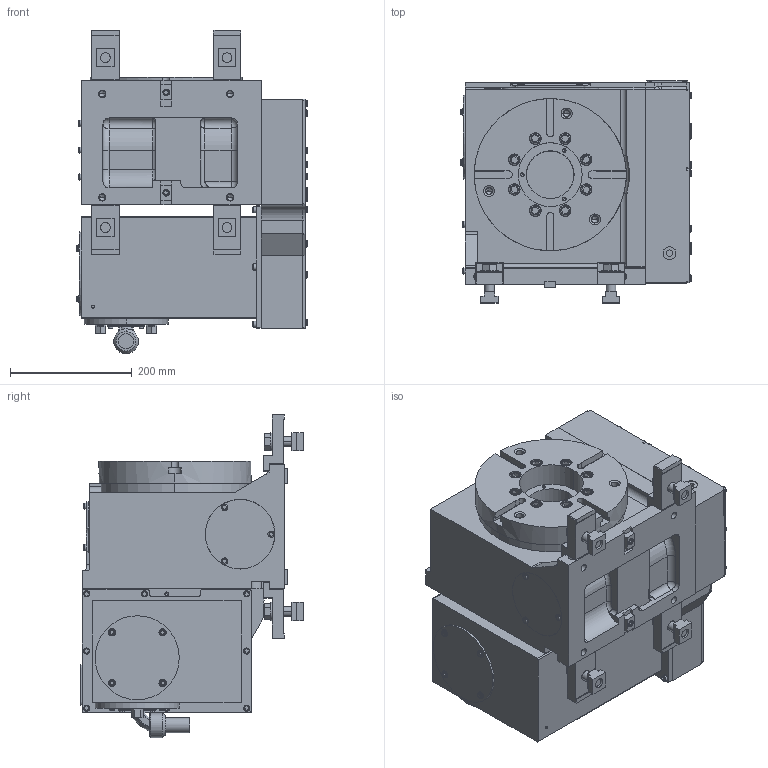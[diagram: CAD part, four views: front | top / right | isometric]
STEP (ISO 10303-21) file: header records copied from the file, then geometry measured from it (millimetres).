
FILE_DESCRIPTION (( 'STEP AP214' ), '1' );
FILE_NAME ('TBX250BV.STEP', '2019-12-10T23:25:13', ( '' ), ( '' ), 'SwSTEP 2.0', 'SolidWorks 2017', '' );
FILE_SCHEMA (( 'AUTOMOTIVE_DESIGN' ));
Length unit declared in the file: millimetre
Products named in the file (13): TBX250BV; CLAMPING PARTS(61E442122)結合; TBX250B20ホンタイ; キタガワシール; 働乕僽儖N29ZSZ2562; SMC KQ2E06-02; コネクタプレート(61E4463882); 僇僶乕丂俹(61E4458433)MR250RAM01; モータケース(61E2704050)TBX250B20; TBX250B01僋儈僞僥(61E112171); ギヤーボックス(61E1130632)TBX250B01; テーブル(61E3647071)TMX250H00; 儂儞僞僀ASSY(61E1121705)TBX250B01
Assembly tree (16 placements, depth 4):
  TBX250BV
    TBX250B20ホンタイ
      TBX250B01僋儈僞僥(61E112171)
        儂儞僞僀ASSY(61E1121705)TBX250B01
        テーブル(61E3647071)TMX250H00
        ギヤーボックス(61E1130632)TBX250B01
      モータケース(61E2704050)TBX250B20
      僇僶乕丂俹(61E4458433)MR250RAM01
      コネクタプレート(61E4463882)
      SMC KQ2E06-02  x2
      働乕僽儖N29ZSZ2562
      キタガワシール
    CLAMPING PARTS(61E442122)結合  x4
Bounding box: 380.1 x 366 x 531.4 mm (x, y, z)
Volume: 37172490.7 mm3; surface area: 1590486.5 mm2
Topology: 14 solids, 14 shells, 3386 faces, 8737 edges, 5684 vertices
Faces by surface type: plane 2365, cylinder 733, cone 184, torus 88, sphere 8, bspline 8
Entity records: 110810 total; most frequent: CARTESIAN_POINT 17752, ORIENTED_EDGE 16472, DIRECTION 16328, EDGE_CURVE 8236, LINE 6500, VECTOR 6500, VERTEX_POINT 5404, AXIS2_PLACEMENT_3D 4914
